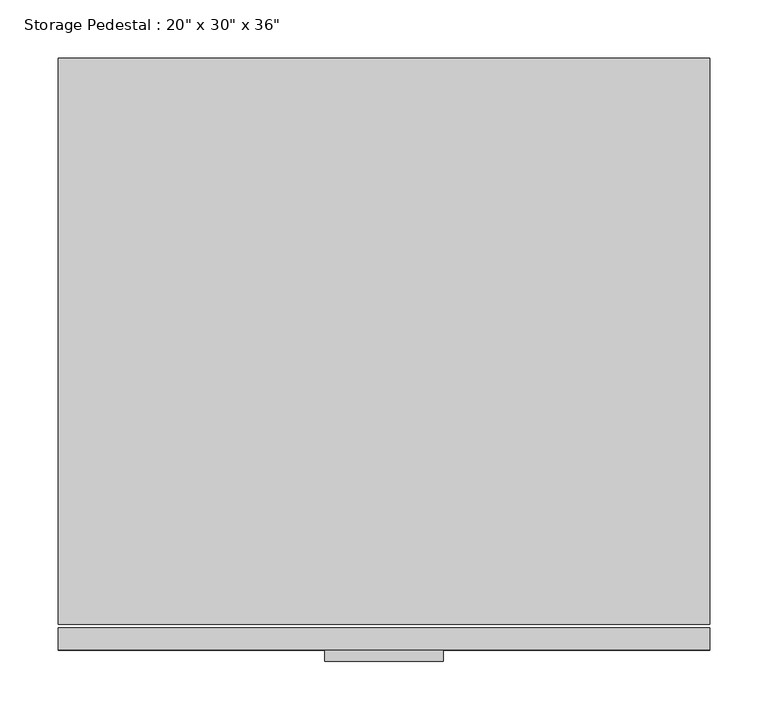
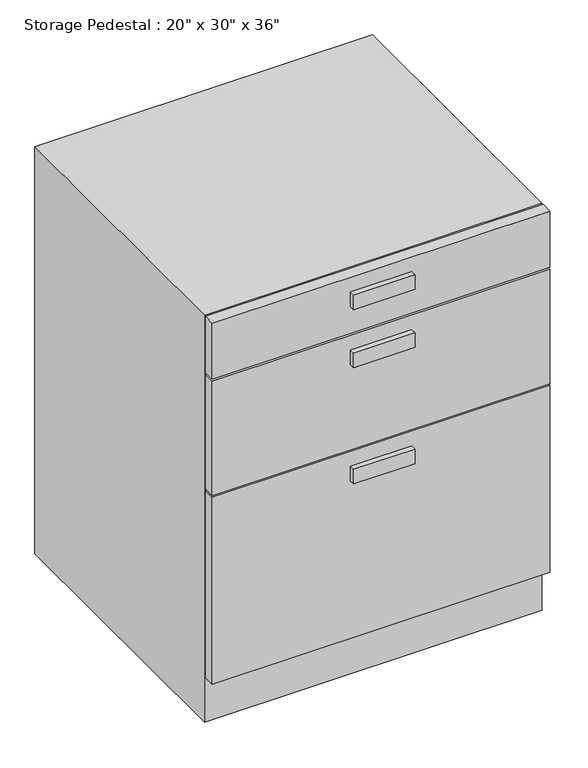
"""IFC4 building model written with IfcOpenShell, lengths in millimetres: furniture geometry."""

from ifc_helpers import new_model, si_unit, frame, origin, origin_with_axes, place, context, project, spatial, polyline, outline, extrude, source, transform, mapped, element, save


def furniture_0333d240(model_context):
    return source(origin(), model_context, "Body", "SweptSolid", [
        extrude(outline(polyline([(99.3774861, -1188.3183761), (-459.4225139, -1188.3183761), (-459.4225139, -1169.2683761), (99.3774861, -1169.2683761), (99.3774861, -1188.3183761)])), frame((0.0, 0.0, 79.375), z_axis=(0.0, 0.0, 1.0), x_axis=(1.0, 0.0, 0.0)), (0.0, 0.0, 1.0), 327.025),
        extrude(outline(polyline([(99.3774861, -1188.3183761), (-459.4225139, -1188.3183761), (-459.4225139, -1169.2683761), (99.3774861, -1169.2683761), (99.3774861, -1188.3183761)])), frame((0.0, 0.0, 409.575), z_axis=(0.0, 0.0, 1.0), x_axis=(1.0, 0.0, 0.0)), (0.0, 0.0, 1.0), 200.025),
        extrude(outline(polyline([(99.3774861, -1188.3183761), (-459.4225139, -1188.3183761), (-459.4225139, -1169.2683761), (99.3774861, -1169.2683761), (99.3774861, -1188.3183761)])), frame((0.0, 0.0, 612.775), z_axis=(0.0, 0.0, 1.0), x_axis=(1.0, 0.0, 0.0)), (0.0, 0.0, 1.0), 98.425),
        extrude(outline(polyline([(99.3774861, -680.3183761), (99.3774861, -1166.0933761), (-459.4225139, -1166.0933761), (-459.4225139, -680.3183761), (99.3774861, -680.3183761)])), origin_with_axes(), (0.0, 0.0, 1.0), 711.2),
        extrude(outline(polyline([(-129.2225139, -1197.8433761), (-230.8225139, -1197.8433761), (-230.8225139, -1188.3183761), (-129.2225139, -1188.3183761), (-129.2225139, -1197.8433761)])), frame((0.0, 0.0, 660.4), z_axis=(0.0, 0.0, 1.0), x_axis=(1.0, 0.0, 0.0)), (0.0, 0.0, 1.0), 25.4),
        extrude(outline(polyline([(-129.2225139, -1197.8433761), (-230.8225139, -1197.8433761), (-230.8225139, -1188.3183761), (-129.2225139, -1188.3183761), (-129.2225139, -1197.8433761)])), frame((0.0, 0.0, 558.8), z_axis=(0.0, 0.0, 1.0), x_axis=(1.0, 0.0, 0.0)), (0.0, 0.0, 1.0), 25.4),
        extrude(outline(polyline([(-129.2225139, -1197.8433761), (-230.8225139, -1197.8433761), (-230.8225139, -1188.3183761), (-129.2225139, -1188.3183761), (-129.2225139, -1197.8433761)])), frame((0.0, 0.0, 355.6), z_axis=(0.0, 0.0, 1.0), x_axis=(1.0, 0.0, 0.0)), (0.0, 0.0, 1.0), 25.4),
    ])


if __name__ == "__main__":
    model = new_model("IFC4")
    model_context = context("Model", 3, world=origin())
    ifc_project = project(units=[si_unit("LENGTHUNIT", "METRE", prefix="MILLI")], contexts=[model_context])
    site = spatial("IfcSite", under=ifc_project)
    building = spatial("IfcBuilding", under=site)
    placement = place(None, origin())
    furniture_shape = furniture_0333d240(model_context)
    element("IfcFurniture", 1, ObjectType="Storage Pedestal : 20\" x 30\" x 36\"", at=placement, inside=building, context=model_context, shape_type="MappedRepresentation", body=[
        mapped(furniture_shape, transform((0.0, 0.0, 0.0), x_axis=(1.0, 0.0, 0.0), y_axis=(0.0, 1.0, 0.0), z_axis=(0.0, 0.0, 1.0))),
    ])
    save(model, "model.ifc")
